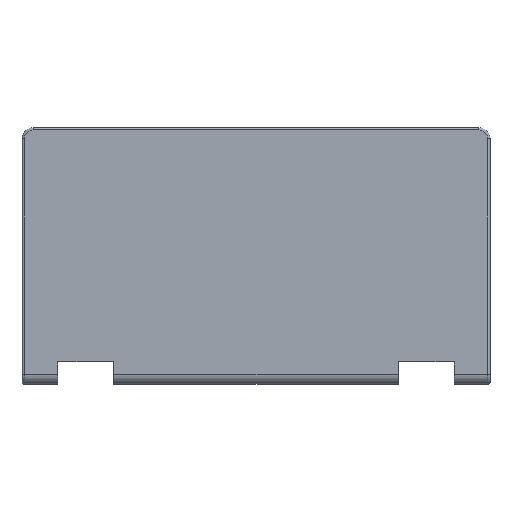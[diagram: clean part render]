
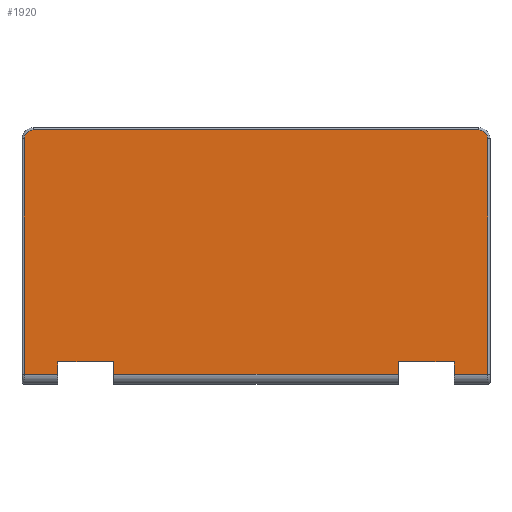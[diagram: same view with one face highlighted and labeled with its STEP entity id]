
A CAD part, front view. The second image highlights one B-rep face of the part: STEP entity #1920.
In plain terms, the highlighted planar face has unit normal (0, -1, 0).
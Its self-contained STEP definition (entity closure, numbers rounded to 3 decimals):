
#109 = DIRECTION ( 'NONE',  ( -1., 0., 0. ) ) ;
#148 = PLANE ( 'NONE',  #1572 ) ;
#244 = CARTESIAN_POINT ( 'NONE',  ( 208.6, 0., -5. ) ) ;
#357 = VECTOR ( 'NONE', #2626, 1000. ) ;
#382 = ORIENTED_EDGE ( 'NONE', *, *, #4446, .T. ) ;
#398 = AXIS2_PLACEMENT_3D ( 'NONE', #5509, #6371, #975 ) ;
#717 = CARTESIAN_POINT ( 'NONE',  ( 0., 0., -110.4 ) ) ;
#784 = ORIENTED_EDGE ( 'NONE', *, *, #11093, .T. ) ;
#863 = DIRECTION ( 'NONE',  ( 0., -1., 0. ) ) ;
#908 = CARTESIAN_POINT ( 'NONE',  ( 168.6, 0., -110.4 ) ) ;
#915 = DIRECTION ( 'NONE',  ( 0., -1., 0. ) ) ;
#975 = DIRECTION ( 'NONE',  ( 0., 0., -1. ) ) ;
#1110 = CARTESIAN_POINT ( 'NONE',  ( 0., 0., -110.4 ) ) ;
#1156 = EDGE_CURVE ( 'NONE', #9454, #9822, #9089, .T. ) ;
#1318 = VERTEX_POINT ( 'NONE', #9765 ) ;
#1572 = AXIS2_PLACEMENT_3D ( 'NONE', #8962, #915, #8117 ) ;
#1593 = DIRECTION ( 'NONE',  ( 0., 0., -1. ) ) ;
#1699 = LINE ( 'NONE', #10900, #10684 ) ;
#1920 = ADVANCED_FACE ( 'NONE', ( #4765 ), #148, .T. ) ;
#1933 = VECTOR ( 'NONE', #7574, 1000. ) ;
#2010 = ORIENTED_EDGE ( 'NONE', *, *, #4355, .T. ) ;
#2048 = LINE ( 'NONE', #6196, #357 ) ;
#2137 = CARTESIAN_POINT ( 'NONE',  ( 1., 0., -110.4 ) ) ;
#2169 = ORIENTED_EDGE ( 'NONE', *, *, #4713, .T. ) ;
#2263 = EDGE_CURVE ( 'NONE', #9822, #10904, #8115, .T. ) ;
#2626 = DIRECTION ( 'NONE',  ( 0., 0., 1. ) ) ;
#2658 = CARTESIAN_POINT ( 'NONE',  ( 16., 0., -104.9 ) ) ;
#2730 = ORIENTED_EDGE ( 'NONE', *, *, #9460, .T. ) ;
#2731 = EDGE_CURVE ( 'NONE', #1318, #5475, #1699, .T. ) ;
#2742 = CIRCLE ( 'NONE', #398, 4. ) ;
#3035 = DIRECTION ( 'NONE',  ( 1., 0., 0. ) ) ;
#3067 = EDGE_CURVE ( 'NONE', #5232, #10459, #4636, .T. ) ;
#3196 = VECTOR ( 'NONE', #10177, 1000. ) ;
#3408 = CARTESIAN_POINT ( 'NONE',  ( 5., 0., -5. ) ) ;
#3465 = CARTESIAN_POINT ( 'NONE',  ( 193.6, 0., -110.4 ) ) ;
#3507 = DIRECTION ( 'NONE',  ( 0., 0., 1. ) ) ;
#3637 = VECTOR ( 'NONE', #5330, 1000. ) ;
#3701 = CARTESIAN_POINT ( 'NONE',  ( 193.6, 0., -104.9 ) ) ;
#3933 = ORIENTED_EDGE ( 'NONE', *, *, #3067, .T. ) ;
#4045 = EDGE_CURVE ( 'NONE', #6521, #5232, #4463, .T. ) ;
#4053 = EDGE_CURVE ( 'NONE', #7604, #6431, #9376, .T. ) ;
#4175 = CARTESIAN_POINT ( 'NONE',  ( 0., 0., -110.4 ) ) ;
#4355 = EDGE_CURVE ( 'NONE', #5475, #5943, #7790, .T. ) ;
#4446 = EDGE_CURVE ( 'NONE', #5058, #6521, #11634, .T. ) ;
#4463 = LINE ( 'NONE', #7226, #3637 ) ;
#4598 = VECTOR ( 'NONE', #3035, 1000. ) ;
#4636 = LINE ( 'NONE', #717, #10822 ) ;
#4713 = EDGE_CURVE ( 'NONE', #10904, #7604, #7645, .T. ) ;
#4765 = FACE_OUTER_BOUND ( 'NONE', #8301, .T. ) ;
#4806 = ORIENTED_EDGE ( 'NONE', *, *, #11008, .T. ) ;
#4915 = CARTESIAN_POINT ( 'NONE',  ( 168.6, 0., -104.9 ) ) ;
#4985 = ORIENTED_EDGE ( 'NONE', *, *, #4053, .T. ) ;
#5052 = EDGE_CURVE ( 'NONE', #5943, #11583, #7224, .T. ) ;
#5058 = VERTEX_POINT ( 'NONE', #10973 ) ;
#5217 = AXIS2_PLACEMENT_3D ( 'NONE', #3408, #863, #1593 ) ;
#5232 = VERTEX_POINT ( 'NONE', #8517 ) ;
#5330 = DIRECTION ( 'NONE',  ( 0., 0., -1. ) ) ;
#5475 = VERTEX_POINT ( 'NONE', #11632 ) ;
#5509 = CARTESIAN_POINT ( 'NONE',  ( 204.6, 0., -5. ) ) ;
#5943 = VERTEX_POINT ( 'NONE', #6924 ) ;
#6019 = ORIENTED_EDGE ( 'NONE', *, *, #2263, .T. ) ;
#6196 = CARTESIAN_POINT ( 'NONE',  ( 168.6, 0., -114.9 ) ) ;
#6229 = CARTESIAN_POINT ( 'NONE',  ( 41., 0., -104.9 ) ) ;
#6357 = LINE ( 'NONE', #9841, #9609 ) ;
#6371 = DIRECTION ( 'NONE',  ( 0., -1., 0. ) ) ;
#6431 = VERTEX_POINT ( 'NONE', #9891 ) ;
#6510 = ORIENTED_EDGE ( 'NONE', *, *, #4045, .T. ) ;
#6521 = VERTEX_POINT ( 'NONE', #6229 ) ;
#6573 = DIRECTION ( 'NONE',  ( 0., 0., -1. ) ) ;
#6599 = CARTESIAN_POINT ( 'NONE',  ( 193.6, 0., -104.9 ) ) ;
#6684 = CARTESIAN_POINT ( 'NONE',  ( 193.6, 0., -114.9 ) ) ;
#6924 = CARTESIAN_POINT ( 'NONE',  ( 1., 0., -5. ) ) ;
#6928 = CARTESIAN_POINT ( 'NONE',  ( 16., 0., -110.4 ) ) ;
#6992 = VECTOR ( 'NONE', #8373, 1000. ) ;
#7026 = CARTESIAN_POINT ( 'NONE',  ( 208.6, 0., -110.4 ) ) ;
#7224 = LINE ( 'NONE', #2137, #3196 ) ;
#7226 = CARTESIAN_POINT ( 'NONE',  ( 41., 0., -114.9 ) ) ;
#7382 = ORIENTED_EDGE ( 'NONE', *, *, #10447, .T. ) ;
#7574 = DIRECTION ( 'NONE',  ( 1., 0., 0. ) ) ;
#7604 = VERTEX_POINT ( 'NONE', #7026 ) ;
#7645 = LINE ( 'NONE', #1110, #4598 ) ;
#7773 = DIRECTION ( 'NONE',  ( 1., 0., 0. ) ) ;
#7790 = CIRCLE ( 'NONE', #5217, 4. ) ;
#7800 = VECTOR ( 'NONE', #8406, 1000. ) ;
#8115 = LINE ( 'NONE', #6684, #9688 ) ;
#8117 = DIRECTION ( 'NONE',  ( 0., 0., -1. ) ) ;
#8301 = EDGE_LOOP ( 'NONE', ( #2169, #4985, #784, #10192, #2010, #10663, #2730, #4806, #382, #6510, #3933, #7382, #9472, #6019 ) ) ;
#8373 = DIRECTION ( 'NONE',  ( 0., 0., 1. ) ) ;
#8406 = DIRECTION ( 'NONE',  ( 1., 0., 0. ) ) ;
#8517 = CARTESIAN_POINT ( 'NONE',  ( 41., 0., -110.4 ) ) ;
#8903 = DIRECTION ( 'NONE',  ( 1., 0., 0. ) ) ;
#8962 = CARTESIAN_POINT ( 'NONE',  ( 5., 0., -5. ) ) ;
#9089 = LINE ( 'NONE', #6599, #7800 ) ;
#9376 = LINE ( 'NONE', #244, #6992 ) ;
#9454 = VERTEX_POINT ( 'NONE', #4915 ) ;
#9460 = EDGE_CURVE ( 'NONE', #11583, #10886, #11344, .T. ) ;
#9472 = ORIENTED_EDGE ( 'NONE', *, *, #1156, .T. ) ;
#9609 = VECTOR ( 'NONE', #3507, 1000. ) ;
#9688 = VECTOR ( 'NONE', #6573, 1000. ) ;
#9765 = CARTESIAN_POINT ( 'NONE',  ( 204.6, 0., -1. ) ) ;
#9822 = VERTEX_POINT ( 'NONE', #3701 ) ;
#9841 = CARTESIAN_POINT ( 'NONE',  ( 16., 0., -114.9 ) ) ;
#9891 = CARTESIAN_POINT ( 'NONE',  ( 208.6, 0., -5. ) ) ;
#10177 = DIRECTION ( 'NONE',  ( 0., 0., -1. ) ) ;
#10192 = ORIENTED_EDGE ( 'NONE', *, *, #2731, .T. ) ;
#10447 = EDGE_CURVE ( 'NONE', #10459, #9454, #2048, .T. ) ;
#10459 = VERTEX_POINT ( 'NONE', #908 ) ;
#10663 = ORIENTED_EDGE ( 'NONE', *, *, #5052, .T. ) ;
#10684 = VECTOR ( 'NONE', #109, 1000. ) ;
#10822 = VECTOR ( 'NONE', #7773, 1000. ) ;
#10886 = VERTEX_POINT ( 'NONE', #6928 ) ;
#10897 = CARTESIAN_POINT ( 'NONE',  ( 1., 0., -110.4 ) ) ;
#10900 = CARTESIAN_POINT ( 'NONE',  ( 5., 0., -1. ) ) ;
#10904 = VERTEX_POINT ( 'NONE', #3465 ) ;
#10973 = CARTESIAN_POINT ( 'NONE',  ( 16., 0., -104.9 ) ) ;
#11008 = EDGE_CURVE ( 'NONE', #10886, #5058, #6357, .T. ) ;
#11093 = EDGE_CURVE ( 'NONE', #6431, #1318, #2742, .T. ) ;
#11344 = LINE ( 'NONE', #4175, #1933 ) ;
#11356 = VECTOR ( 'NONE', #8903, 1000. ) ;
#11583 = VERTEX_POINT ( 'NONE', #10897 ) ;
#11632 = CARTESIAN_POINT ( 'NONE',  ( 5., 0., -1. ) ) ;
#11634 = LINE ( 'NONE', #2658, #11356 ) ;
